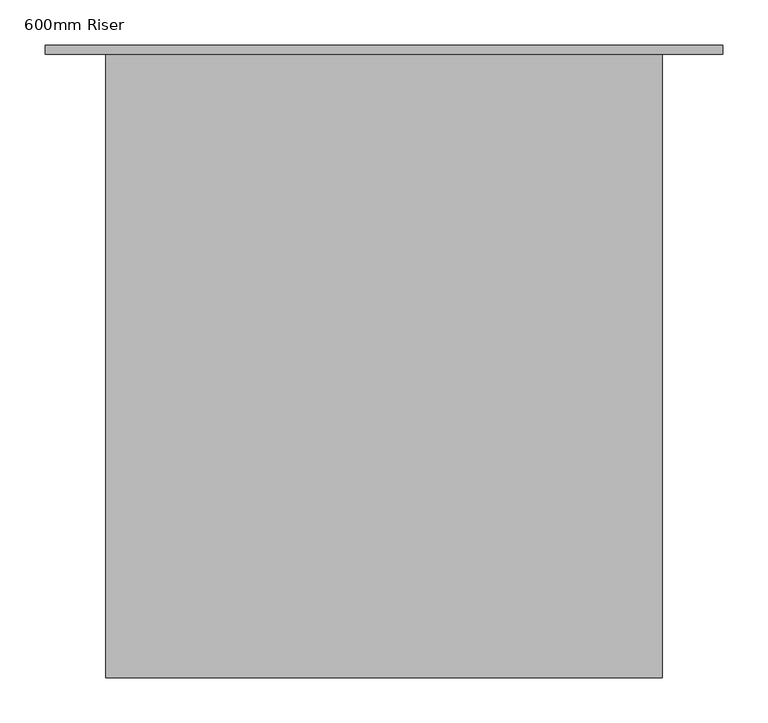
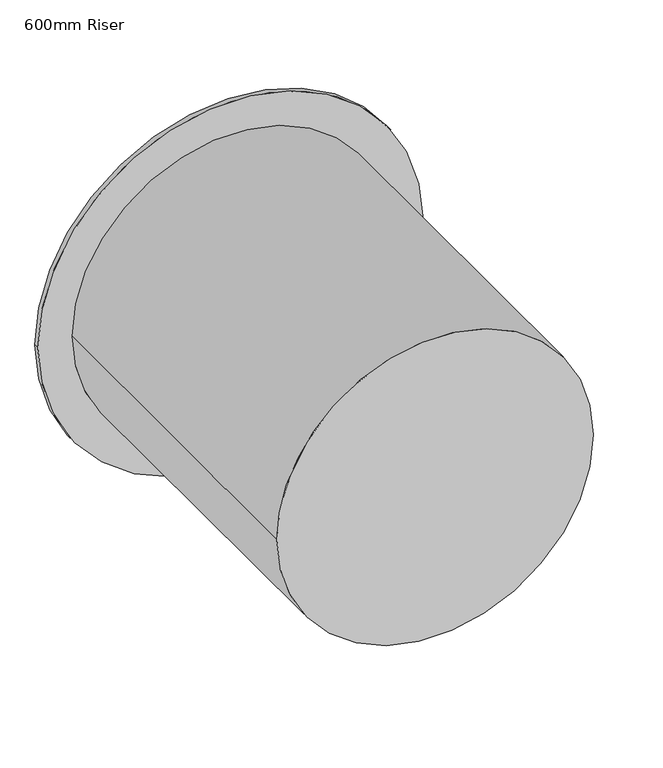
"""IFC4 building model written with IfcOpenShell, lengths in millimetres: proxy geometry, 600mm Riser."""

from ifc_helpers import new_model, si_unit, frame, origin, place, context, project, spatial, circle_curve, source, transform, mapped, element, save
from ifc_brep_helpers import plane_surface, cylinder_surface, advanced_brep


def proxy_600mm_riser_a9bc8535(model_context):
    return source(origin(), model_context, "Body", "AdvancedBrep", [
        advanced_brep(
        [(-375.0, 2490.0, 0.0), (-375.0, 2500.0, 0.0), (375.0, 2500.0, 0.0), (375.0, 2490.0, 0.0), (-308.0, 1800.0, 0.0), (-308.0, 2490.0, 0.0), (308.0, 2490.0, 0.0), (308.0, 1800.0, 0.0), (-197.9049896, 1800.0, 236.0034218)],
        [
            (0, 1),
            (1, 2, circle_curve(frame((0.0, 2500.0, 0.0), z_axis=(0.0, -1.0, 0.0), x_axis=(-1.0, 0.0, 0.0)), 375.0)),
            (2, 3),
            (3, 0, circle_curve(frame((0.0, 2490.0, 0.0), z_axis=(0.0, 1.0, 0.0), x_axis=(-1.0, 0.0, 0.0)), 375.0)),
            (4, 5),
            (5, 6, circle_curve(frame((0.0, 2490.0, 0.0), z_axis=(0.0, -1.0, 0.0), x_axis=(-1.0, 0.0, 0.0)), 308.0)),
            (6, 7),
            (7, 4, circle_curve(frame((0.0, 1800.0, 0.0), z_axis=(0.0, 1.0, 0.0), x_axis=(-1.0, 0.0, 0.0)), 308.0)),
            (1, 2, circle_curve(frame((0.0, 2500.0, 0.0), z_axis=(0.0, 1.0, 0.0), x_axis=(-1.0, 0.0, 0.0)), 375.0)),
            (7, 8, circle_curve(frame((0.0, 1800.0, 0.0), z_axis=(0.0, -1.0, 0.0), x_axis=(-1.0, 0.0, 0.0)), 308.0)),
            (8, 4, circle_curve(frame((0.0, 1800.0, 0.0), z_axis=(0.0, -1.0, 0.0), x_axis=(-1.0, 0.0, 0.0)), 308.0)),
            (6, 5, circle_curve(frame((0.0, 2490.0, 0.0), z_axis=(0.0, -1.0, 0.0), x_axis=(-1.0, 0.0, 0.0)), 308.0)),
            (3, 0, circle_curve(frame((0.0, 2490.0, 0.0), z_axis=(0.0, -1.0, 0.0), x_axis=(-1.0, 0.0, 0.0)), 375.0)),
        ],
        [
            cylinder_surface(frame((0.0, 2495.0, 0.0), z_axis=(0.0, 1.0, 0.0), x_axis=(-1.0, 0.0, 0.0)), 375.0),
            cylinder_surface(frame((0.0, 1245.0, 0.0), z_axis=(0.0, 1.0, 0.0), x_axis=(-1.0, 0.0, 0.0)), 308.0),
            plane_surface(frame((-300.0, 2500.0, 0.0), z_axis=(0.0, 1.0, 0.0), x_axis=(0.0, 0.0, 1.0))),
            plane_surface(frame((0.0, 1800.0, 0.0), z_axis=(0.0, -1.0, 0.0), x_axis=(0.766244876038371, 0.0, 0.6425486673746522))),
            plane_surface(frame((-375.0, 2490.0, 0.0), z_axis=(0.0, -1.0, 0.0), x_axis=(0.0, 0.0, -1.0))),
        ],
        [
            (0, [[1, 2, 3, 4]]),
            (1, [[5, 6, 7, 8]]),
            (2, [[9, -2]]),
            (3, [[10, 11, -8]]),
            (1, [[-5, -11, -10, -7, 12]]),
            (4, [[13, -4], [-12, -6]]),
            (0, [[-1, -13, -3, -9]]),
        ],
    ),
    ])


if __name__ == "__main__":
    model = new_model("IFC4")
    model_context = context("Model", 3, world=origin())
    ifc_project = project(units=[si_unit("LENGTHUNIT", "METRE", prefix="MILLI")], contexts=[model_context])
    site = spatial("IfcSite", under=ifc_project)
    building = spatial("IfcBuilding", under=site)
    placement = place(None, origin())
    proxy_600mm_riser_shape = proxy_600mm_riser_a9bc8535(model_context)
    element("IfcBuildingElementProxy", 1, Name="600mm Riser", ObjectType="600mm Riser", at=placement, inside=building, context=model_context, shape_type="MappedRepresentation", body=[
        mapped(proxy_600mm_riser_shape, transform((0.0, 0.0, 0.0), x_axis=(1.0, 0.0, 0.0), y_axis=(0.0, 1.0, 0.0), z_axis=(0.0, 0.0, 1.0))),
    ])
    save(model, "model.ifc")
